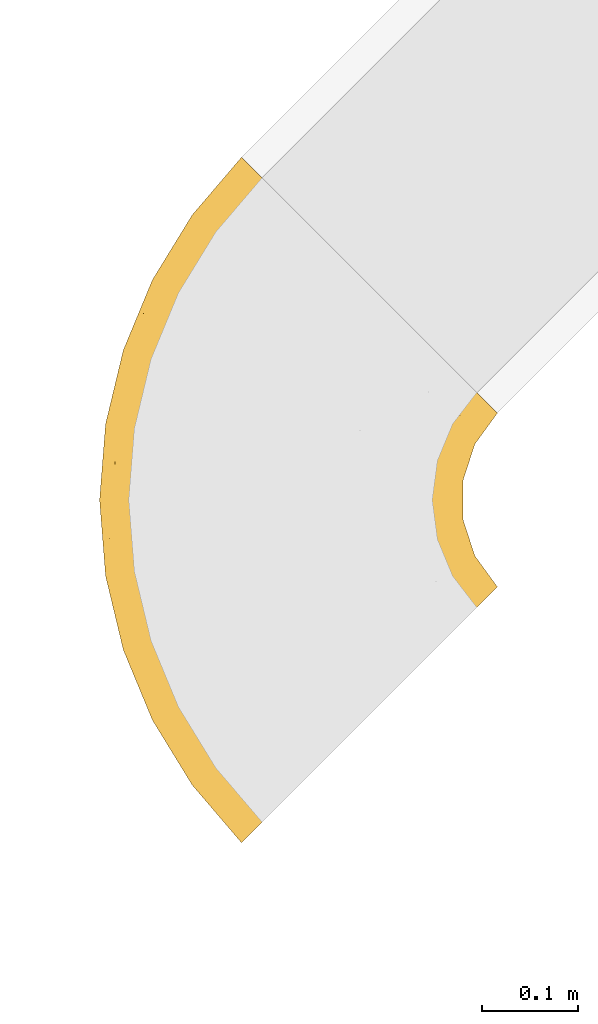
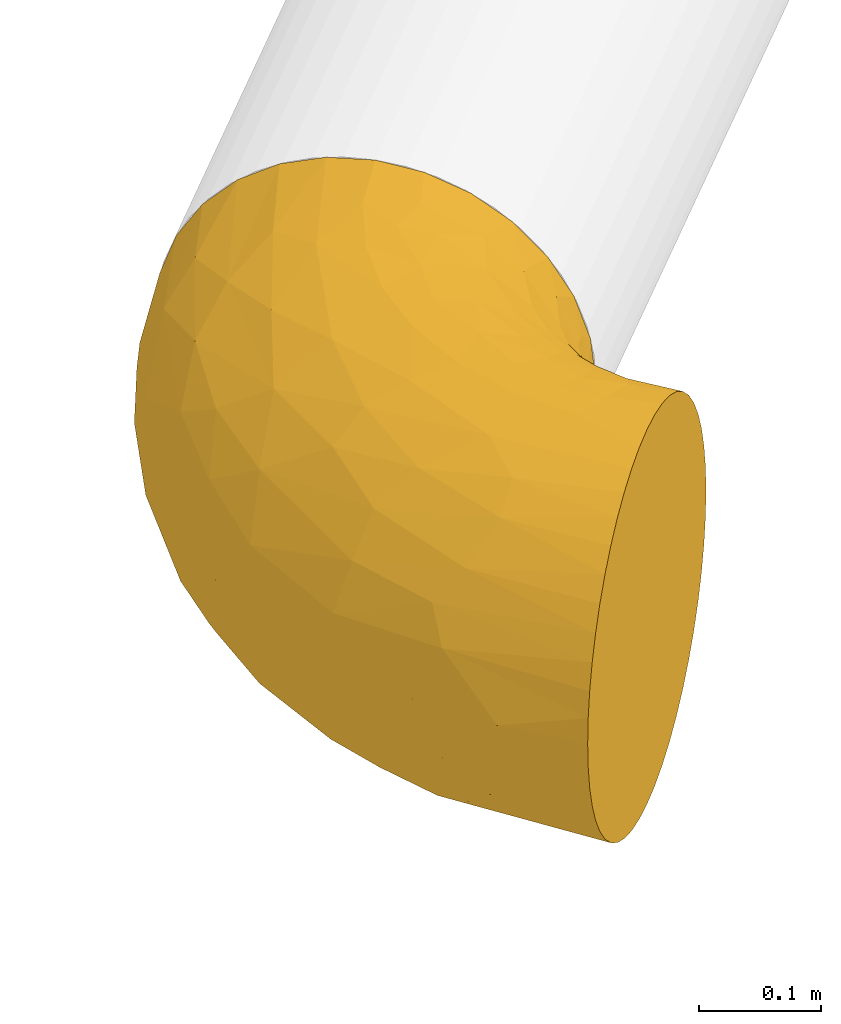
# One storey, part 2 of 7: 1 covering.
"""IFC2X3 building model written with IfcOpenShell, lengths in millimetres."""

from ifc_helpers import new_model, entity, si_unit, converted_unit, derived_unit, direction, frame, origin_with_axes, place, context, subcontext, project, spatial, open_shell, surface_model, source, transform, mapped, element, save


model = new_model("IFC2X3")

# Units and contexts
model_context = context("Model", 3, precision=0.01, world=frame((0.0, 4.29681676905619e-09, 0.0)), true_north=direction((4.01073788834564e-13, 1.0)))
plan_context = context("Plan", 3, precision=0.01, world=frame((0.0, 4.29681676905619e-09, 0.0)), true_north=direction((4.01073788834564e-13, 1.0)))
body_context = subcontext(model_context, "Body", "Model", "MODEL_VIEW")
ifc_project = project(units=[converted_unit("PLANEANGLEUNIT", "DEGREE", entity("IfcPositiveLengthMeasure", 0.0174532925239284), si_unit("PLANEANGLEUNIT", "RADIAN"), dimensions=[0, 0, 0, 0, 0, 0, 0]), si_unit("AREAUNIT", "SQUARE_METRE"), si_unit("LENGTHUNIT", "METRE", prefix="MILLI"), si_unit("MASSUNIT", "GRAM", prefix="KILO"), si_unit("POWERUNIT", "WATT"), si_unit("PRESSUREUNIT", "PASCAL", prefix="KILO"), si_unit("FORCEUNIT", "NEWTON", prefix="KILO"), si_unit("ELECTRICVOLTAGEUNIT", "VOLT"), si_unit("ELECTRICCURRENTUNIT", "AMPERE"), si_unit("THERMODYNAMICTEMPERATUREUNIT", "DEGREE_CELSIUS"), si_unit("TIMEUNIT", "SECOND"), si_unit("VOLUMEUNIT", "CUBIC_METRE"), derived_unit("LINEARVELOCITYUNIT", [(si_unit("LENGTHUNIT", "METRE"), 1), (si_unit("TIMEUNIT", "SECOND"), -1)]), derived_unit("VOLUMETRICFLOWRATEUNIT", [(si_unit("VOLUMEUNIT", "CUBIC_METRE"), 1), (si_unit("TIMEUNIT", "SECOND"), -1)]), derived_unit("THERMALTRANSMITTANCEUNIT", [(si_unit("POWERUNIT", "WATT"), 1), (si_unit("THERMODYNAMICTEMPERATUREUNIT", "KELVIN"), -1), (si_unit("AREAUNIT", "SQUARE_METRE"), -1)]), derived_unit("SOUNDPRESSUREUNIT", [(si_unit("PRESSUREUNIT", "PASCAL"), 1)])], contexts=[model_context, plan_context])

# Site, building, storey
site_placement = place(None, frame((0.0, -4.29681676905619e-09, 0.0), z_axis=(0.0, 0.0, 1.0), x_axis=(1.0, 0.0, 0.0)))
site = spatial("IfcSite", under=ifc_project, at=site_placement, CompositionType="ELEMENT")
building_placement = place(site_placement, frame((0.0, 4.29681676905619e-09, 0.0), z_axis=(0.0, 0.0, 1.0), x_axis=(1.0, 0.0, 0.0)))
building = spatial("IfcBuilding", under=site, at=building_placement, Name="mc-building", CompositionType="ELEMENT")
storey_placement = place(building_placement, frame((0.0, 0.0, 207370.0), z_axis=(0.0, 0.0, 1.0), x_axis=(1.0, 0.0, 0.0)))
storey = spatial("IfcBuildingStorey", under=building, at=storey_placement, Name="Nivå E", CompositionType="ELEMENT", Elevation=207370.0)

# Covering
shared_shape = source(origin_with_axes(), body_context, "Body", "SurfaceModel", [
    surface_model("IfcShellBasedSurfaceModel", [(173.22595, 315.0, 71.75667), (181.11, 315.0, 48.53263), (185.89528, 315.0, 24.47835), (-48.53263, 315.0, 181.11), (-93.75296, 315.0, 162.37804), (-71.75667, 315.0, 173.22595), (-132.58437, 315.0, 132.58067), (-162.38066, 315.0, 93.74847), (-148.75509, 315.0, 114.14103), (-173.22793, 315.0, 71.7519), (-185.89598, 315.0, 24.47321), (-181.11133, 315.0, 48.5277), (-173.22595, 315.0, -71.75667), (-148.75191, 315.0, -114.14517), (-162.37804, 315.0, -93.75296), (-315.0, 187.5, 0.0), (-315.0, 182.79898, -41.72268), (-315.0, 168.93166, -81.3532), (-315.0, 182.79898, 41.72268), (-315.0, 146.5934, -116.90434), (-315.0, 116.90434, -146.5934), (-315.0, 81.3532, -168.93166), (-315.0, 168.93166, 81.3532), (-315.0, 116.90434, 146.5934), (-315.0, 146.5934, 116.90434), (-315.0, -168.93166, -81.3532), (-315.0, -182.79898, -41.72268), (-315.0, -146.5934, -116.90434), (-315.0, -81.3532, 168.93166), (-315.0, -146.5934, 116.90434), (-315.0, -116.90434, 146.5934), (-315.0, -168.93166, 81.3532), (-315.0, -182.79898, 41.72268), (25.92309, -6.8628, 107.16879), (61.29228, -5.14796, 55.63689), (109.98861, 94.1536, 90.98483), (-236.39168, -181.31339, 0.0), (-217.71758, -173.79341, 39.08888), (85.20486, 106.03907, 128.57352), (100.94482, 217.67719, 150.24028), (60.76475, 137.57352, 158.26103), (-159.71896, -162.9059, 0.0), (-86.86977, -132.73078, 0.0), (-128.59812, -144.88207, 48.1093), (-315.0, -187.5, 0.0), (-33.41766, -94.79611, 44.2088), (-67.79874, -99.05163, 84.79314), (-19.63791, -91.53104, 0.0), (131.51114, 196.42755, 116.40956), (-32.905, -10.63186, 147.44447), (32.68411, 57.05821, 145.77907), (1.60821, 75.54234, 168.63596), (40.32116, -40.32116, 0.0), (123.81423, 81.83736, 45.42944), (-23.97795, 194.45472, 187.5), (-53.08707, 139.99538, 187.5), (-24.66802, 107.15089, 182.72099), (91.53104, 19.63791, 0.0), (-195.22551, -147.52722, 93.04667), (-215.22255, -60.06645, 172.65859), (-315.0, -41.72268, 182.79898), (-225.10272, -128.80073, 127.13584), (-315.0, 0.0, 187.5), (-192.28559, -17.30648, 183.34782), (-167.3797, -86.11534, 150.06224), (-139.99538, 53.08707, 187.5), (-194.45472, 23.97795, 187.5), (-71.84808, 28.66862, 177.42193), (-92.26137, 92.26137, 187.5), (144.37047, 171.34125, 86.58707), (162.37804, 315.0, 93.75296), (132.58067, 315.0, 132.58437), (114.14103, 315.0, 148.75509), (-6.05264, 253.54655, 187.5), (30.4779, 189.10236, 179.94078), (-253.54655, 6.05264, 187.5), (-120.19523, -100.82838, 119.84738), (161.78796, 184.40744, 54.68178), (181.31339, 236.39168, 0.0), (132.73078, 86.86977, 0.0), (162.9059, 159.71896, 0.0), (2.34392, -55.92336, 71.93757), (-115.85817, -34.72629, 165.85765), (148.75191, 315.0, 114.14517), (187.5, 315.0, 0.0), (24.47321, 315.0, 185.89598), (69.13715, 219.36306, 169.16671), (48.5277, 315.0, 181.11133), (0.0, 315.0, 187.5), (71.7519, 315.0, 173.22793), (93.74847, 315.0, 162.38066), (-42.32667, -62.13792, 111.98402), (-272.21594, 49.76461, 181.68439), (-106.80175, 144.13611, 181.85405), (-107.42466, 240.63181, 161.94166), (-86.23706, 275.97565, 168.16205), (-130.87021, 262.8569, 140.9681), (-231.74, 40.52851, 185.37057), (-161.21603, 210.41995, 136.04653), (-190.08264, 181.01526, 133.3443), (-158.9938, 181.01357, 152.30877), (-287.56691, 188.03772, 29.85574), (-265.65978, 194.27902, 32.93239), (-275.60033, 193.7403, 0.0), (-164.97292, 240.58664, 115.71736), (-159.89714, 279.56853, 104.16776), (-181.19274, 254.53241, 82.92772), (-315.0, 81.3532, 168.93166), (-315.0, 41.72268, 182.79898), (-69.22616, 183.63114, 183.94866), (-98.08182, 204.27725, 173.34963), (-268.97839, 138.48329, 132.58252), (-274.7696, 103.54908, 158.76079), (-226.84166, 118.03729, 159.10382), (-185.47478, 72.67536, 183.13306), (-239.94302, 73.31377, 176.97813), (-114.14517, 315.0, 148.75191), (-161.98719, 128.55335, 172.36343), (-137.36255, 98.54815, 184.20656), (-285.79794, 161.51407, 99.75601), (-296.62784, 179.90179, 56.89873), (-251.06249, 173.57242, 98.09697), (-275.79254, 182.66401, 61.92732), (-43.54539, 224.62691, 185.25984), (-71.90113, 238.91825, 177.54812), (-40.54851, 268.1817, 183.89637), (-186.3904, 294.88413, 31.54873), (-217.48278, 228.47072, 32.69321), (-201.63684, 245.53096, 44.90026), (-211.85033, 240.05739, 0.0), (-24.47835, 315.0, 185.89528), (-190.99715, 274.27628, 33.50963), (-181.0016, 284.3896, 60.26883), (-184.18098, 215.71209, 111.46682), (-215.86391, 215.86393, 67.83115), (-219.60244, 189.75933, 101.63496), (-202.79531, 257.82885, 0.0), (-193.7403, 275.60033, 0.0), (-222.85896, 157.56377, 132.58252), (-187.5, 315.0, 0.0), (-189.71366, 301.02354, 0.0), (-245.17313, 198.41514, 55.48097), (-196.00168, 232.03013, 79.24153), (-126.6497, 173.37041, 169.88563), (-208.07545, 95.24819, 173.69421), (-143.45591, 234.05245, 139.47065), (-231.0274, 212.85585, 41.85032), (-257.82885, 202.79531, 0.0), (-182.21088, 153.1644, 154.89498), (-133.33055, 208.02048, 155.89877), (-301.02354, 189.71366, 0.0), (-240.05739, 211.85033, 0.0), (-225.95385, 225.95385, 0.0), (-170.86757, 264.20555, -94.09673), (-170.11896, 291.10707, -82.93237), (-147.66244, 267.19577, -123.62946), (-287.56691, 188.03772, -29.85574), (-92.26137, 92.26137, -187.5), (-106.83372, 144.16236, -181.84366), (-53.08707, 139.99538, -187.5), (-109.15377, 269.41975, -155.90166), (-132.58067, 315.0, -132.58437), (-114.14103, 315.0, -148.75509), (-23.97795, 194.45472, -187.5), (-41.54249, 232.04757, -185.20639), (-6.05264, 253.54655, -187.5), (-223.22811, 157.3483, -132.58252), (-218.26633, 191.72896, -100.47687), (-184.22064, 182.17564, -136.45036), (-245.45273, 198.05935, -56.00196), (-265.65978, 194.27902, -32.93239), (-296.62784, 179.90179, -56.89873), (-285.84674, 161.50479, -99.75601), (-269.19283, 138.42752, -132.58252), (-217.55998, 217.55998, -61.29249), (-191.13915, 275.44859, -30.65192), (-240.81016, 70.42884, -177.83437), (-231.31455, 39.12606, -185.58742), (-272.14874, 46.64197, -182.4455), (-251.19228, 173.52235, -98.0843), (-185.64359, 293.6673, -36.58382), (-183.31826, 275.59264, -60.2737), (-315.0, 0.0, -187.5), (-315.0, 41.72268, -182.79898), (-276.0293, 75.84491, -172.83614), (-274.8368, 103.53631, -158.76079), (-69.23383, 183.63525, -183.94695), (-139.43807, 180.08501, -162.47419), (-102.1832, 222.44434, -168.16434), (-144.7518, 225.28058, -141.90085), (-162.05061, 128.63064, -172.32057), (-185.46353, 72.6543, -183.13831), (-208.63825, 108.23496, -168.38338), (-194.45472, 23.97795, -187.5), (-185.89528, 315.0, -24.47835), (-190.62014, 295.30016, 0.0), (-93.74847, 315.0, -162.38066), (-139.99538, 53.08707, -187.5), (-137.3989, 98.59243, -184.19568), (-66.29301, 259.92914, -177.54975), (-199.7216, 214.15655, -94.68167), (-199.34552, 245.89656, -51.55319), (-178.2907, 233.61345, -104.17209), (-181.11, 315.0, -48.53263), (-48.5277, 315.0, -181.11133), (-71.7519, 315.0, -173.22793), (-253.54655, 6.05264, -187.5), (-36.61642, 274.45247, -184.45048), (0.0, 315.0, -187.5), (-24.47321, 315.0, -185.89598), (-241.46084, 122.68989, -152.48448), (-275.79256, 182.66401, -61.92732), (-231.66914, 214.78395, -32.48384), (-194.42667, 143.87848, -154.88975), (-159.34939, 198.32098, -143.67576), (-180.85787, 208.21883, -120.62617), (-165.45118, 158.72022, -159.42306), (-216.07636, 230.51124, -31.07604), (-119.62427, -8.80516, -176.53417), (2.34354, -55.92372, -71.93752), (61.29213, -5.14781, -55.63758), (-33.41766, -94.79611, -44.2088), (-215.22255, -60.06645, -172.65859), (-167.3797, -86.11534, -150.06224), (-315.0, -81.3532, -168.93166), (-315.0, -116.90434, -146.5934), (-225.10272, -128.80073, -127.13584), (-230.67958, -27.16333, -183.73214), (46.58948, 59.04809, -137.00202), (25.93363, -6.84983, -107.17058), (-32.905, -10.63186, -147.44447), (-315.0, -41.72268, -182.79898), (-195.22551, -147.52722, -93.04667), (95.82395, 113.92854, -121.98854), (-43.71538, 86.90997, -183.30725), (131.94374, 198.46265, -116.53514), (156.79563, 223.31617, -87.89633), (109.99557, 94.16282, -90.98137), (-217.71758, -173.79341, -39.08888), (-40.66064, 37.59478, -171.78176), (14.33328, 114.21293, -173.6539), (43.31764, 102.04645, -157.44361), (-120.19523, -100.82838, -119.84738), (-128.59812, -144.88207, -48.1093), (34.78081, 211.5389, -180.77628), (-67.79874, -99.05163, -84.79314), (123.196, 82.62579, -48.95058), (114.14517, 315.0, -148.75191), (132.58437, 315.0, -132.58067), (148.75509, 315.0, -114.14103), (162.38066, 315.0, -93.74847), (24.47835, 315.0, -185.89528), (60.66386, 177.50741, -167.10893), (48.53263, 315.0, -181.11), (93.75296, 315.0, -162.37804), (71.75667, 315.0, -173.22595), (88.4717, 160.93578, -146.60832), (-42.32019, -62.13214, -111.98521), (161.7918, 184.41654, -54.67757), (173.22793, 315.0, -71.7519), (181.11133, 315.0, -48.5277), (185.89598, 315.0, -24.47321)], [open_shell([[[0, 1, 2]], [[3, 4, 5]], [[6, 7, 8]], [[9, 10, 11]], [[12, 13, 14]], [[15, 16, 17]], [[18, 15, 17]], [[19, 20, 21]], [[22, 23, 24]], [[23, 22, 18]], [[25, 26, 27]], [[28, 29, 30]], [[31, 29, 32]], [[33, 34, 35]], [[36, 37, 32]], [[38, 39, 40]], [[41, 42, 43]], [[36, 32, 44]], [[45, 46, 43]], [[47, 45, 42]], [[48, 39, 38]], [[45, 43, 42]], [[49, 50, 51]], [[33, 38, 50]], [[52, 34, 45]], [[35, 34, 53]], [[37, 41, 43]], [[54, 55, 56]], [[34, 52, 57]], [[31, 58, 29]], [[28, 59, 60]], [[29, 58, 61]], [[62, 60, 63]], [[28, 30, 64]], [[31, 37, 58]], [[63, 65, 66]], [[67, 68, 65]], [[69, 0, 70]], [[59, 63, 60]], [[28, 64, 59]], [[39, 71, 72]], [[73, 54, 74]], [[75, 62, 63]], [[55, 68, 56]], [[49, 64, 76]], [[69, 48, 35]], [[71, 39, 48]], [[2, 77, 78]], [[53, 57, 79]], [[80, 77, 53]], [[30, 29, 61]], [[80, 78, 77]], [[46, 45, 81]], [[63, 82, 67]], [[1, 77, 2]], [[70, 83, 48]], [[1, 0, 77]], [[64, 30, 61]], [[76, 58, 46]], [[49, 82, 64]], [[84, 2, 78]], [[32, 37, 31]], [[69, 70, 48]], [[61, 76, 64]], [[73, 74, 85]], [[86, 87, 74]], [[39, 86, 40]], [[88, 73, 85]], [[48, 83, 71]], [[43, 46, 58]], [[51, 56, 67]], [[38, 35, 48]], [[74, 40, 86]], [[56, 68, 67]], [[85, 74, 87]], [[82, 63, 59]], [[63, 66, 75]], [[65, 63, 67]], [[89, 86, 90]], [[72, 90, 39]], [[64, 82, 59]], [[49, 76, 91]], [[79, 80, 53]], [[58, 76, 61]], [[82, 49, 67]], [[76, 46, 91]], [[50, 38, 40]], [[33, 35, 38]], [[90, 86, 39]], [[87, 86, 89]], [[52, 45, 47]], [[81, 45, 34]], [[51, 50, 40]], [[33, 50, 49]], [[74, 51, 40]], [[49, 51, 67]], [[51, 74, 56]], [[54, 56, 74]], [[81, 91, 46]], [[49, 91, 33]], [[34, 33, 81]], [[91, 81, 33]], [[53, 69, 35]], [[69, 77, 0]], [[53, 77, 69]], [[57, 53, 34]], [[41, 37, 36]], [[58, 37, 43]], [[75, 92, 62]], [[93, 68, 55]], [[94, 95, 96]], [[97, 92, 75]], [[75, 66, 97]], [[98, 99, 100]], [[101, 102, 103]], [[104, 105, 106]], [[92, 107, 108]], [[93, 109, 110]], [[111, 112, 113]], [[114, 115, 97]], [[116, 95, 4]], [[93, 117, 118]], [[24, 119, 22]], [[6, 105, 96]], [[18, 120, 101]], [[119, 121, 122]], [[122, 101, 120]], [[55, 54, 109]], [[109, 123, 124]], [[112, 111, 23]], [[123, 125, 124]], [[11, 10, 126]], [[24, 23, 111]], [[65, 68, 118]], [[105, 6, 8]], [[114, 66, 65]], [[93, 55, 109]], [[118, 114, 65]], [[96, 95, 116]], [[119, 24, 111]], [[127, 128, 129]], [[125, 95, 124]], [[3, 125, 130]], [[96, 116, 6]], [[131, 132, 126]], [[88, 130, 73]], [[133, 134, 135]], [[125, 5, 95]], [[128, 127, 134]], [[125, 3, 5]], [[121, 119, 111]], [[73, 130, 125]], [[7, 132, 105]], [[8, 7, 105]], [[11, 132, 9]], [[95, 94, 124]], [[136, 128, 131]], [[7, 9, 132]], [[106, 105, 132]], [[95, 5, 4]], [[137, 131, 126]], [[104, 133, 98]], [[113, 138, 111]], [[23, 107, 112]], [[10, 139, 140]], [[10, 140, 126]], [[121, 141, 122]], [[123, 73, 125]], [[128, 142, 106]], [[143, 93, 110]], [[144, 117, 113]], [[145, 94, 96]], [[124, 110, 109]], [[92, 112, 107]], [[112, 115, 113]], [[121, 111, 138]], [[120, 119, 122]], [[138, 135, 121]], [[121, 135, 141]], [[146, 134, 127]], [[141, 147, 102]], [[123, 109, 54]], [[124, 94, 110]], [[114, 144, 115]], [[148, 113, 117]], [[93, 118, 68]], [[114, 118, 117]], [[137, 126, 140]], [[11, 126, 132]], [[129, 128, 136]], [[106, 132, 131]], [[131, 137, 136]], [[106, 131, 128]], [[142, 133, 104]], [[99, 133, 135]], [[141, 135, 134]], [[99, 135, 138]], [[106, 142, 104]], [[117, 100, 148]], [[117, 143, 100]], [[94, 149, 110]], [[110, 149, 143]], [[100, 143, 149]], [[117, 93, 143]], [[98, 100, 149]], [[100, 99, 148]], [[99, 138, 148]], [[113, 148, 138]], [[98, 145, 104]], [[99, 98, 133]], [[145, 98, 149]], [[105, 104, 96]], [[94, 145, 149]], [[96, 104, 145]], [[150, 101, 103]], [[150, 15, 18]], [[73, 123, 54]], [[18, 101, 150]], [[102, 101, 122]], [[122, 141, 102]], [[18, 22, 120]], [[147, 141, 151]], [[147, 103, 102]], [[119, 120, 22]], [[114, 97, 66]], [[92, 97, 115]], [[92, 115, 112]], [[92, 108, 62]], [[146, 152, 151]], [[134, 146, 141]], [[146, 127, 152]], [[151, 141, 146]], [[127, 129, 152]], [[128, 134, 142]], [[134, 133, 142]], [[117, 144, 114]], [[113, 115, 144]], [[153, 154, 155]], [[103, 156, 150]], [[157, 158, 159]], [[160, 161, 162]], [[150, 156, 16]], [[163, 164, 165]], [[166, 167, 168]], [[169, 170, 147]], [[171, 16, 156]], [[172, 173, 19]], [[167, 169, 174]], [[13, 154, 14]], [[175, 136, 137]], [[176, 177, 178]], [[173, 172, 179]], [[175, 180, 181]], [[182, 183, 178]], [[184, 185, 176]], [[159, 186, 163]], [[187, 188, 158]], [[21, 20, 185]], [[189, 160, 188]], [[154, 12, 14]], [[173, 20, 19]], [[190, 191, 192]], [[177, 191, 193]], [[189, 188, 187]], [[139, 194, 195]], [[166, 173, 179]], [[181, 180, 154]], [[155, 154, 13]], [[196, 160, 162]], [[13, 161, 155]], [[197, 198, 157]], [[199, 160, 196]], [[161, 160, 155]], [[195, 194, 180]], [[200, 201, 202]], [[180, 12, 154]], [[154, 153, 181]], [[180, 203, 12]], [[187, 158, 190]], [[137, 195, 175]], [[157, 198, 158]], [[186, 159, 158]], [[20, 173, 185]], [[164, 186, 188]], [[204, 199, 205]], [[199, 196, 205]], [[199, 188, 160]], [[177, 193, 206]], [[165, 207, 208]], [[207, 204, 209]], [[193, 191, 197]], [[207, 165, 164]], [[185, 173, 210]], [[19, 17, 172]], [[198, 191, 190]], [[203, 180, 194]], [[166, 179, 167]], [[192, 191, 176]], [[155, 202, 153]], [[201, 153, 202]], [[171, 172, 17]], [[172, 211, 179]], [[210, 192, 176]], [[184, 176, 178]], [[169, 179, 211]], [[179, 169, 167]], [[170, 211, 156]], [[151, 152, 212]], [[190, 192, 213]], [[189, 155, 160]], [[158, 188, 186]], [[164, 188, 199]], [[174, 200, 167]], [[214, 215, 189]], [[167, 200, 215]], [[213, 216, 190]], [[191, 198, 197]], [[158, 198, 190]], [[210, 176, 185]], [[192, 210, 213]], [[214, 189, 187]], [[202, 155, 189]], [[16, 15, 150]], [[186, 164, 163]], [[207, 164, 199]], [[204, 207, 199]], [[207, 209, 208]], [[173, 166, 210]], [[213, 210, 166]], [[166, 168, 213]], [[168, 214, 216]], [[170, 156, 103]], [[156, 211, 171]], [[151, 212, 147]], [[169, 211, 170]], [[170, 103, 147]], [[172, 171, 211]], [[17, 16, 171]], [[201, 175, 181]], [[201, 136, 175]], [[201, 181, 153]], [[152, 217, 212]], [[206, 182, 178]], [[129, 136, 201]], [[191, 177, 176]], [[206, 178, 177]], [[184, 183, 21]], [[183, 184, 178]], [[21, 185, 184]], [[168, 216, 213]], [[187, 190, 216]], [[175, 195, 180]], [[174, 169, 212]], [[147, 212, 169]], [[201, 200, 174]], [[215, 214, 168]], [[216, 214, 187]], [[167, 215, 168]], [[200, 202, 215]], [[189, 215, 202]], [[218, 193, 197]], [[219, 220, 221]], [[222, 223, 224]], [[225, 223, 226]], [[182, 206, 227]], [[228, 229, 230]], [[218, 227, 193]], [[222, 231, 227]], [[27, 226, 232]], [[229, 228, 233]], [[223, 225, 224]], [[157, 159, 234]], [[235, 236, 237]], [[157, 234, 197]], [[233, 235, 237]], [[163, 234, 159]], [[232, 238, 25]], [[239, 240, 241]], [[36, 44, 26]], [[230, 242, 223]], [[232, 243, 238]], [[230, 218, 239]], [[244, 163, 165]], [[237, 220, 229]], [[36, 26, 238]], [[245, 221, 243]], [[218, 230, 223]], [[246, 80, 79]], [[235, 247, 248]], [[242, 232, 226]], [[42, 243, 221]], [[249, 250, 236]], [[244, 234, 163]], [[242, 226, 223]], [[165, 208, 251]], [[240, 252, 241]], [[244, 251, 253]], [[165, 251, 244]], [[231, 182, 227]], [[254, 252, 255]], [[254, 247, 256]], [[27, 225, 226]], [[256, 247, 235]], [[224, 231, 222]], [[232, 25, 27]], [[240, 244, 252]], [[229, 257, 230]], [[256, 252, 254]], [[245, 243, 232]], [[47, 42, 221]], [[246, 220, 237]], [[220, 57, 52]], [[246, 57, 220]], [[249, 235, 248]], [[78, 80, 258]], [[42, 41, 243]], [[259, 258, 236]], [[235, 249, 236]], [[260, 261, 258]], [[239, 234, 240]], [[261, 84, 78]], [[255, 244, 253]], [[245, 242, 257]], [[258, 261, 78]], [[240, 234, 244]], [[259, 260, 258]], [[197, 234, 218]], [[246, 237, 258]], [[41, 36, 238]], [[218, 234, 239]], [[218, 223, 222]], [[221, 52, 47]], [[232, 242, 245]], [[219, 221, 245]], [[52, 221, 220]], [[255, 252, 244]], [[241, 256, 228]], [[193, 227, 206]], [[218, 222, 227]], [[230, 257, 242]], [[219, 257, 229]], [[257, 219, 245]], [[229, 220, 219]], [[230, 239, 241]], [[233, 228, 256]], [[256, 241, 252]], [[241, 228, 230]], [[235, 233, 256]], [[229, 233, 237]], [[259, 236, 250]], [[237, 236, 258]], [[80, 246, 258]], [[57, 246, 79]], [[238, 26, 25]], [[41, 238, 243]], [[88, 85, 87]], [[70, 0, 194]], [[83, 70, 72]], [[71, 83, 72]], [[3, 130, 88]], [[3, 116, 4]], [[6, 9, 7]], [[249, 261, 260]], [[161, 13, 162]], [[194, 12, 203]], [[162, 13, 12]], [[204, 208, 209]], [[208, 204, 162]], [[17, 21, 18]], [[17, 19, 21]], [[18, 21, 183]], [[107, 23, 108]], [[108, 23, 18]], [[183, 108, 18]], [[108, 28, 62]], [[108, 183, 27]], [[27, 182, 231]], [[225, 231, 224]], [[27, 28, 108]], [[27, 231, 225]], [[44, 27, 26]], [[60, 62, 28]], [[32, 29, 27]], [[29, 28, 27]], [[32, 27, 44]], [[183, 182, 27]], [[87, 89, 90]], [[87, 90, 72]], [[88, 87, 72]], [[88, 72, 3]], [[3, 72, 70]], [[194, 139, 70]], [[116, 3, 70]], [[6, 116, 9]], [[10, 9, 139]], [[116, 139, 9]], [[139, 116, 70]], [[194, 0, 2]], [[84, 261, 12]], [[259, 250, 249]], [[259, 249, 260]], [[248, 261, 249]], [[12, 261, 247]], [[255, 247, 254]], [[247, 253, 208]], [[253, 247, 255]], [[261, 248, 247]], [[251, 208, 253]], [[12, 194, 84]], [[162, 205, 196]], [[205, 162, 204]], [[162, 12, 247]], [[208, 162, 247]], [[84, 194, 2]], [[217, 152, 129]], [[217, 201, 174]], [[201, 217, 129]], [[217, 174, 212]]])]),
])
covering_placement = place(storey_placement, frame((599049.37484, 402402.52361, 120.0), z_axis=(0.0, 0.0, 1.0), x_axis=(-0.707106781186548, -0.707106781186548, 0.0)))
element("IfcCovering", 1, at=covering_placement, inside=storey, Name="EI30-30", PredefinedType="INSULATION", context=body_context, shape_type="MappedRepresentation", body=[
    mapped(shared_shape, transform((0.0, 0.0, 0.0), scale=1.0)),
])

save(model, "model.ifc")
